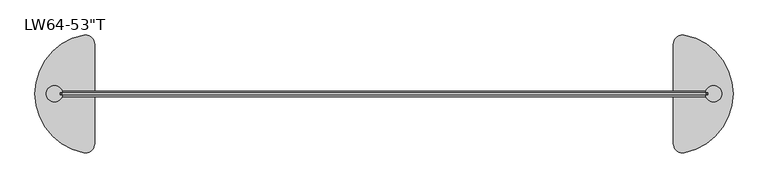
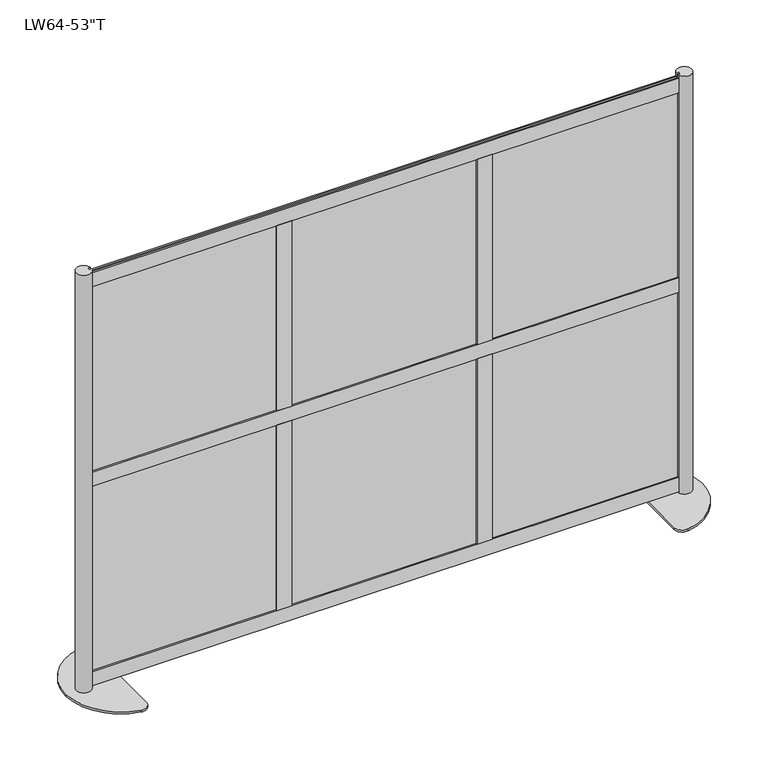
"""IFC4 building model written with IfcOpenShell, lengths in millimetres: furniture geometry."""

from ifc_helpers import new_model, si_unit, point, frame, frame_2d, origin, origin_with_axes, place, context, project, spatial, polyline, circle_curve, trimmed, segment, composite_curve, outline, extrude, source, transform, mapped, element, save


def furniture_68dde310(model_context):
    return source(origin(), model_context, "Body", "SweptSolid", [
        extrude(outline(polyline([(-897.2933616, 1.5875), (-319.4433608, 1.5875), (-319.4435344, -1.5875), (-897.2935353, -1.5875), (-897.2933616, 1.5875)])), frame((0.0, 0.0, 689.2671), z_axis=(0.0, 0.0, 1.0), x_axis=(1.0, 0.0, 0.0)), (0.0, 0.0, 1.0), 608.965),
        extrude(outline(polyline([(-897.2933616, 1.5875), (-319.4433608, 1.5875), (-319.4435344, -1.5875), (-897.2935353, -1.5875), (-897.2933616, 1.5875)])), frame((0.0, 0.0, 49.2633), z_axis=(0.0, 0.0, 1.0), x_axis=(1.0, 0.0, 0.0)), (0.0, 0.0, 1.0), 608.965),
        extrude(outline(polyline([(-296.520037, 1.5875), (281.3299638, 1.5875), (281.3297902, -1.5875), (-296.5202107, -1.5875), (-296.520037, 1.5875)])), frame((0.0, 0.0, 689.2671), z_axis=(0.0, 0.0, 1.0), x_axis=(1.0, 0.0, 0.0)), (0.0, 0.0, 1.0), 608.965),
        extrude(outline(polyline([(-296.520037, 1.5875), (281.3299638, 1.5875), (281.3297902, -1.5875), (-296.5202107, -1.5875), (-296.520037, 1.5875)])), frame((0.0, 0.0, 49.2633), z_axis=(0.0, 0.0, 1.0), x_axis=(1.0, 0.0, 0.0)), (0.0, 0.0, 1.0), 608.965),
        extrude(outline(polyline([(316.9532876, 1.5875), (894.8032884, 1.5875), (894.8031147, -1.5875), (316.9531139, -1.5875), (316.9532876, 1.5875)])), frame((0.0, 0.0, 689.2671), z_axis=(0.0, 0.0, 1.0), x_axis=(1.0, 0.0, 0.0)), (0.0, 0.0, 1.0), 608.965),
        extrude(outline(polyline([(316.9532876, 1.5875), (894.8032884, 1.5875), (894.8031147, -1.5875), (316.9531139, -1.5875), (316.9532876, 1.5875)])), frame((0.0, 0.0, 49.2633), z_axis=(0.0, 0.0, 1.0), x_axis=(1.0, 0.0, 0.0)), (0.0, 0.0, 1.0), 608.965),
        extrude(outline(polyline([(323.8118123, 3.556), (316.6998123, 3.556), (316.6998123, -3.556), (323.8118123, -3.556), (323.8118123, -7.6327), (278.5490123, -7.6327), (278.5490123, -3.556), (285.6610123, -3.556), (285.6610123, 3.556), (278.5490123, 3.556), (278.5490123, 7.6327), (323.8118123, 7.6327), (323.8118123, 3.556)])), frame((0.0, 0.0, 696.3791), z_axis=(0.0, 0.0, 1.0), x_axis=(1.0, 0.0, 0.0)), (0.0, 0.0, 1.0), 594.741),
        extrude(outline(polyline([(323.8118123, 3.556), (316.6998123, 3.556), (316.6998123, -3.556), (323.8118123, -3.556), (323.8118123, -7.6327), (278.5490123, -7.6327), (278.5490123, -3.556), (285.6610123, -3.556), (285.6610123, 3.556), (278.5490123, 3.556), (278.5490123, 7.6327), (323.8118123, 7.6327), (323.8118123, 3.556)])), frame((0.0, 0.0, 56.3753), z_axis=(0.0, 0.0, 1.0), x_axis=(1.0, 0.0, 0.0)), (0.0, 0.0, 1.0), 594.741),
        extrude(outline(polyline([(-329.3680623, 3.556), (-329.3680623, 7.6327), (-284.1052623, 7.6327), (-284.1052623, 3.556), (-291.2172623, 3.556), (-291.2172623, -3.556), (-284.1052623, -3.556), (-284.1052623, -7.6327), (-329.3680623, -7.6327), (-329.3680623, -3.556), (-322.2560623, -3.556), (-322.2560623, 3.556), (-329.3680623, 3.556)])), frame((0.0, 0.0, 696.3791), z_axis=(0.0, 0.0, 1.0), x_axis=(1.0, 0.0, 0.0)), (0.0, 0.0, 1.0), 594.741),
        extrude(outline(polyline([(-329.3680623, 3.556), (-329.3680623, 7.6327), (-284.1052623, 7.6327), (-284.1052623, 3.556), (-291.2172623, 3.556), (-291.2172623, -3.556), (-284.1052623, -3.556), (-284.1052623, -7.6327), (-329.3680623, -7.6327), (-329.3680623, -3.556), (-322.2560623, -3.556), (-322.2560623, 3.556), (-329.3680623, 3.556)])), frame((0.0, 0.0, 56.3753), z_axis=(0.0, 0.0, 1.0), x_axis=(1.0, 0.0, 0.0)), (0.0, 0.0, 1.0), 594.741),
        extrude(outline(polyline([(3.556, 651.1163), (3.556, 658.2283), (-3.556, 658.2283), (-3.556, 651.1163), (-7.6327, 651.1163), (-7.6327, 696.3791), (-3.556, 696.3791), (-3.556, 689.2671), (3.556, 689.2671), (3.556, 696.3791), (7.6327, 696.3791), (7.6327, 651.1163), (3.556, 651.1163)])), frame((-889.7874, 0.0, 0.0), z_axis=(1.0, 0.0, 0.0), x_axis=(0.0, 1.0, 0.0)), (0.0, 0.0, 1.0), 1779.5748),
        extrude(outline(polyline([(3.556, 11.1125), (3.556, 18.2245), (-3.556, 18.2245), (-3.556, 11.1125), (-7.6327, 11.1125), (-7.6327, 56.3753), (-3.556, 56.3753), (-3.556, 49.2633), (3.556, 49.2633), (3.556, 56.3753), (7.6327, 56.3753), (7.6327, 11.1125), (3.556, 11.1125)])), frame((-889.8636, 0.0, 0.0), z_axis=(1.0, 0.0, 0.0), x_axis=(0.0, 1.0, 0.0)), (0.0, 0.0, 1.0), 1779.7272),
        extrude(outline(polyline([(3.556, 1291.1200292), (3.556, 1298.2320292), (-3.556, 1298.2320292), (-3.556, 1291.1200292), (-7.6327, 1291.1200292), (-7.6327, 1336.3828292), (-3.556, 1336.3828292), (-3.556, 1329.2708292), (3.556, 1329.2708292), (3.556, 1336.3828292), (7.6327, 1336.3828292), (7.6327, 1291.1200292), (3.556, 1291.1200292)])), frame((-889.8636, 0.0, 0.0), z_axis=(1.0, 0.0, 0.0), x_axis=(0.0, 1.0, 0.0)), (0.0, 0.0, 1.0), 1779.7272),
        extrude(outline(composite_curve([segment(polyline([(889.8636, -7.7568093), (889.8636, -3.556), (896.9756, -3.556), (896.9756, 3.556), (889.8636, 3.556), (889.8636, 7.7568093)]), True, "CONTINUOUS"), segment(trimmed(circle_curve(frame_2d((910.9665837, 0.0)), 22.4834163), [point((889.8636, 7.7568093))], [point((889.8636, -7.7568093))], False, "CARTESIAN"), True, "CONTINUOUS")], self_intersect=False)), frame((0.0, 0.0, 6.35), z_axis=(0.0, 0.0, 1.0), x_axis=(1.0, 0.0, 0.0)), (0.0, 0.0, 1.0), 1339.85),
        extrude(outline(composite_curve([segment(polyline([(800.1, -137.3715036), (800.1, 137.3715036)]), True, "CONTINUOUS"), segment(trimmed(circle_curve(frame_2d((825.5, 137.3715036)), 25.4), [point((800.1, 137.3715036))], [point((830.1181818, 162.3481406))], False, "CARTESIAN"), True, "CONTINUOUS"), segment(trimmed(circle_curve(frame_2d((800.1, 0.0)), 165.1), [point((830.1181818, 162.3481406))], [point((965.2, 0.0))], False, "CARTESIAN"), True, "CONTINUOUS"), segment(trimmed(circle_curve(frame_2d((800.1, 0.0)), 165.1), [point((965.2, 0.0))], [point((830.1181818, -162.3481406))], False, "CARTESIAN"), True, "CONTINUOUS"), segment(trimmed(circle_curve(frame_2d((825.5, -137.3715036)), 25.4), [point((830.1181818, -162.3481406))], [point((800.1, -137.3715036))], False, "CARTESIAN"), True, "CONTINUOUS")], self_intersect=False)), origin_with_axes(), (0.0, 0.0, 1.0), 6.35),
        extrude(outline(composite_curve([segment(trimmed(circle_curve(frame_2d((-910.9665837, 0.0)), 22.4834163), [point((-889.8636, -7.7568093))], [point((-889.8636, 7.7568093))], False, "CARTESIAN"), True, "CONTINUOUS"), segment(polyline([(-889.8636, 7.7568093), (-889.8636, 3.556), (-896.9756, 3.556), (-896.9756, -3.556), (-889.8636, -3.556), (-889.8636, -7.7568093)]), True, "CONTINUOUS")], self_intersect=False)), frame((0.0, 0.0, 6.35), z_axis=(0.0, 0.0, 1.0), x_axis=(1.0, 0.0, 0.0)), (0.0, 0.0, 1.0), 1339.85),
        extrude(outline(composite_curve([segment(trimmed(circle_curve(frame_2d((-825.5, -137.3715036)), 25.4), [point((-800.1, -137.3715036))], [point((-830.1181818, -162.3481406))], False, "CARTESIAN"), True, "CONTINUOUS"), segment(trimmed(circle_curve(frame_2d((-800.1, 0.0)), 165.1), [point((-830.1181818, -162.3481406))], [point((-965.2, 0.0))], False, "CARTESIAN"), True, "CONTINUOUS"), segment(trimmed(circle_curve(frame_2d((-800.1, 0.0)), 165.1), [point((-965.2, 0.0))], [point((-830.1181818, 162.3481406))], False, "CARTESIAN"), True, "CONTINUOUS"), segment(trimmed(circle_curve(frame_2d((-825.5, 137.3715036)), 25.4), [point((-830.1181818, 162.3481406))], [point((-800.1, 137.3715036))], False, "CARTESIAN"), True, "CONTINUOUS"), segment(polyline([(-800.1, 137.3715036), (-800.1, -137.3715036)]), True, "CONTINUOUS")], self_intersect=False)), origin_with_axes(), (0.0, 0.0, 1.0), 6.35),
    ])


if __name__ == "__main__":
    model = new_model("IFC4")
    model_context = context("Model", 3, world=origin())
    ifc_project = project(units=[si_unit("LENGTHUNIT", "METRE", prefix="MILLI")], contexts=[model_context])
    site = spatial("IfcSite", under=ifc_project)
    building = spatial("IfcBuilding", under=site)
    placement = place(None, origin())
    furniture_shape = furniture_68dde310(model_context)
    element("IfcFurniture", 1, ObjectType="Loft_Wall-Framewall-76 : LW64-53\"T", at=placement, inside=building, context=model_context, shape_type="MappedRepresentation", body=[
        mapped(furniture_shape, transform((0.0, 0.0, 0.0), x_axis=(1.0, 0.0, 0.0), y_axis=(0.0, 1.0, 0.0), z_axis=(0.0, 0.0, 1.0))),
    ])
    save(model, "model.ifc")
